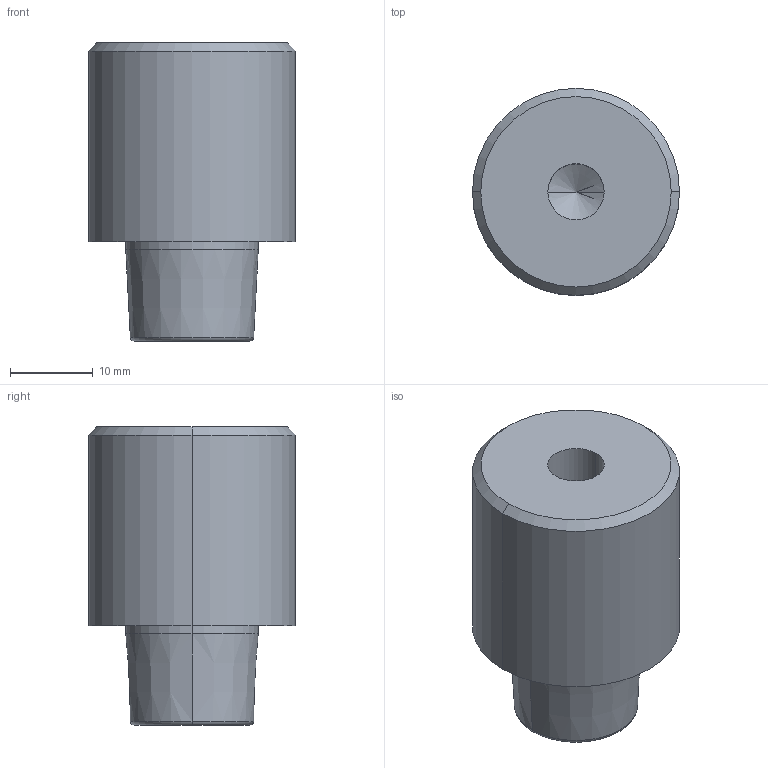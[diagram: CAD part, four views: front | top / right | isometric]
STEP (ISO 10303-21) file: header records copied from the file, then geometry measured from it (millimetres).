
FILE_DESCRIPTION (( 'STEP AP214' ), '1' );
FILE_NAME ('ZTPNP25-3.STEP', '2024-06-04T15:13:20', ( '' ), ( '' ), 'SwSTEP 2.0', 'SolidWorks 2017', '' );
FILE_SCHEMA (( 'AUTOMOTIVE_DESIGN' ));
Length unit declared in the file: millimetre
Products named in the file (1): ZTPNP25-3
Bounding box: 25 x 25 x 36 mm (x, y, z)
Volume: 13319.3 mm3; surface area: 3757.1 mm2
Topology: 1 solids, 1 shells, 17 faces, 34 edges, 19 vertices
Faces by surface type: cylinder 6, cone 6, plane 3, torus 2
Entity records: 486 total; most frequent: DIRECTION 88, CARTESIAN_POINT 69, ORIENTED_EDGE 64, AXIS2_PLACEMENT_3D 38, EDGE_CURVE 32, CIRCLE 20, VERTEX_POINT 19, EDGE_LOOP 19
